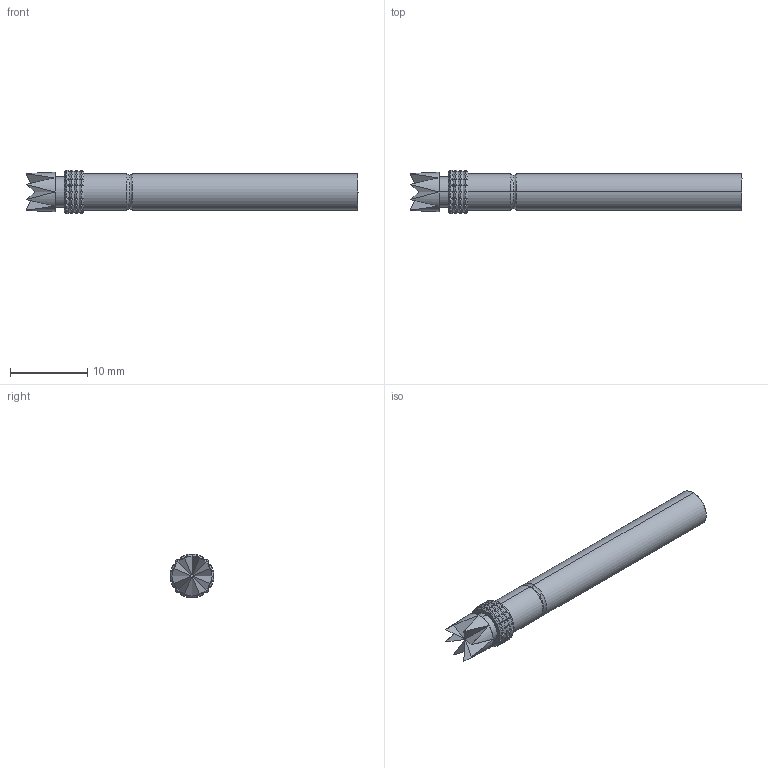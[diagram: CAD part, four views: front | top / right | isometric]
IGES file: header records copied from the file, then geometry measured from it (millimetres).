
Start section: SolidWorks IGES file using analytic representation for surfaces
Global section: file name: O:\PYLON\IGES FILES\P4301\P4301-1Z REC'D.IGS; native system: SolidWorks 2015; preprocessor: SolidWorks 2015; author: kgolden; date: 171023.104836; units: inch
Bounding box: 43.08 x 5.7 x 5.7 mm (x, y, z)
Surface area: 1413.8 mm2 (no closed solid volume)
Topology: 0 solids, 0 shells, 413 faces, 2276 edges, 2276 vertices
Faces by surface type: revolution 211, bspline 202
